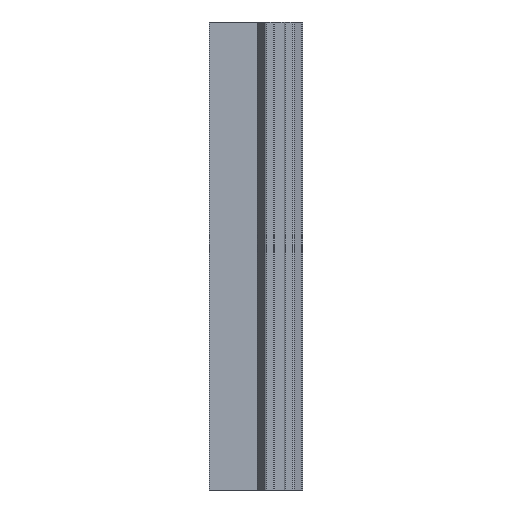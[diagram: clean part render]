
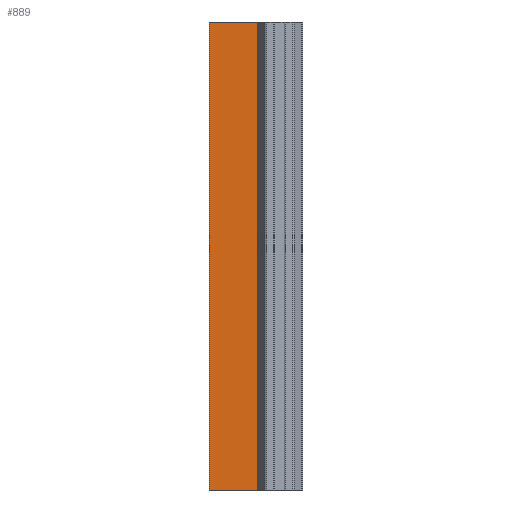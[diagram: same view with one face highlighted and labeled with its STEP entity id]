
A CAD part, front view. The second image highlights one B-rep face of the part: STEP entity #889.
In plain terms, the highlighted planar face has unit normal (0, -1, 0).
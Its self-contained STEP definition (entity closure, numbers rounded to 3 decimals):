
#67=FACE_OUTER_BOUND('',#111,.T.);
#111=EDGE_LOOP('',(#683,#684,#685,#686));
#209=LINE('',#1368,#323);
#210=LINE('',#1371,#324);
#211=LINE('',#1373,#325);
#212=LINE('',#1374,#326);
#323=VECTOR('',#1119,100.);
#324=VECTOR('',#1122,10.8);
#325=VECTOR('',#1123,10.8);
#326=VECTOR('',#1124,100.);
#417=VERTEX_POINT('',#1364);
#418=VERTEX_POINT('',#1366);
#419=VERTEX_POINT('',#1370);
#420=VERTEX_POINT('',#1372);
#529=EDGE_CURVE('',#417,#418,#209,.T.);
#530=EDGE_CURVE('',#419,#417,#210,.T.);
#531=EDGE_CURVE('',#420,#418,#211,.T.);
#532=EDGE_CURVE('',#419,#420,#212,.T.);
#683=ORIENTED_EDGE('',*,*,#530,.T.);
#684=ORIENTED_EDGE('',*,*,#529,.T.);
#685=ORIENTED_EDGE('',*,*,#531,.F.);
#686=ORIENTED_EDGE('',*,*,#532,.F.);
#847=PLANE('',#949);
#889=ADVANCED_FACE('',(#67),#847,.T.);
#949=AXIS2_PLACEMENT_3D('',#1369,#1120,#1121);
#1119=DIRECTION('',(0.,0.,1.));
#1120=DIRECTION('center_axis',(0.,-1.,0.));
#1121=DIRECTION('ref_axis',(1.,0.,0.));
#1122=DIRECTION('',(1.,0.,0.));
#1123=DIRECTION('',(1.,0.,0.));
#1124=DIRECTION('',(0.,0.,1.));
#1364=CARTESIAN_POINT('',(10.901,8.101,0.));
#1366=CARTESIAN_POINT('',(10.901,8.101,100.));
#1368=CARTESIAN_POINT('',(10.901,8.101,0.));
#1369=CARTESIAN_POINT('Origin',(0.101,8.101,0.));
#1370=CARTESIAN_POINT('',(0.101,8.101,0.));
#1371=CARTESIAN_POINT('',(0.101,8.101,0.));
#1372=CARTESIAN_POINT('',(0.101,8.101,100.));
#1373=CARTESIAN_POINT('',(0.101,8.101,100.));
#1374=CARTESIAN_POINT('',(0.101,8.101,0.));
